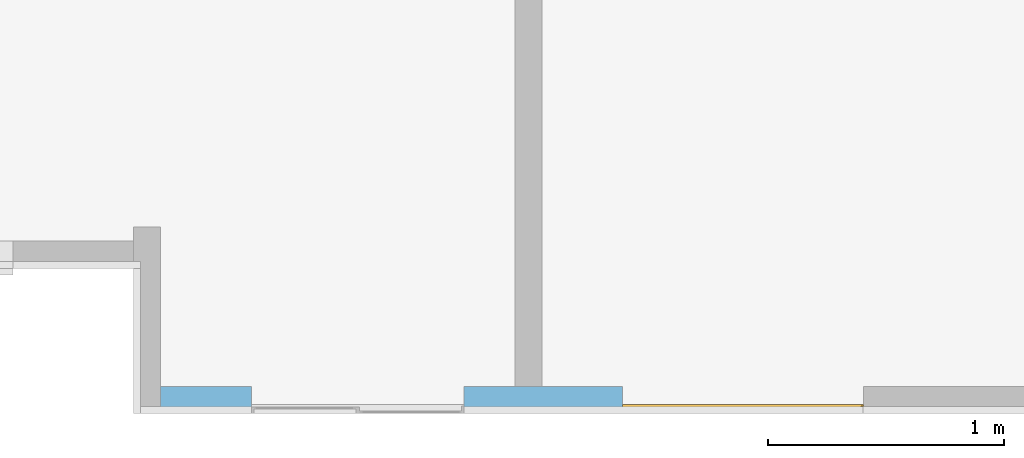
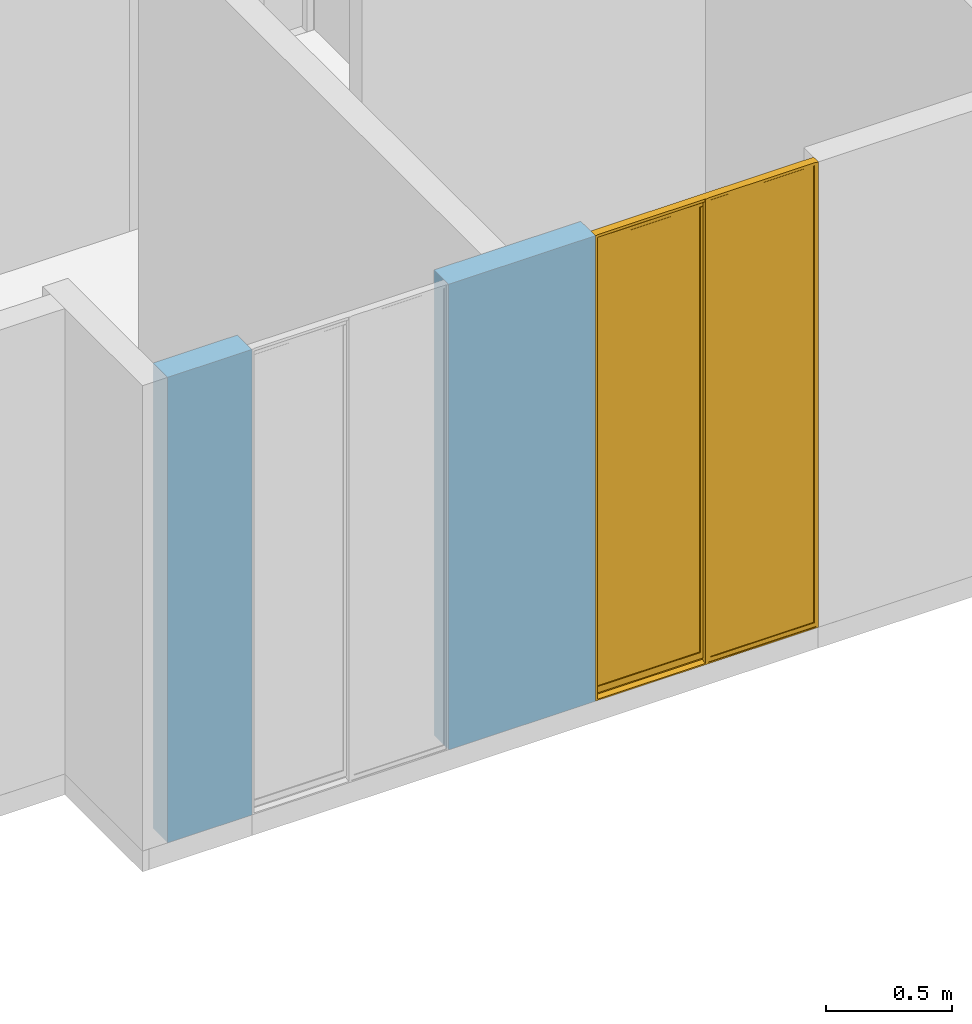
# One storey, part 12 of 48: 1 window, 2 openings, plus 1 element that does not belong to this part.
"""IFC4 building model written with IfcOpenShell, lengths in metres."""

from ifc_helpers import new_model, entity, si_unit, converted_unit, derived_unit, direction, frame, origin, place, context, subcontext, project, spatial, indexed_curve, outline, extrude, polygons, source, transform, mapped, material, constituent, constituent_set, type_object, type_shapes, element, fill, save


model = new_model("IFC4")

# Units and contexts
model_context = context("Model", 3, precision=1e-05, world=origin(), true_north=direction((6.123031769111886e-17, 1.0)))
body_context = subcontext(model_context, "Body", "Model", "MODEL_VIEW")
ifc_project = project(units=[si_unit("LENGTHUNIT", "METRE"), si_unit("AREAUNIT", "SQUARE_METRE"), si_unit("VOLUMEUNIT", "CUBIC_METRE"), converted_unit("PLANEANGLEUNIT", "DEGREE", entity("IfcRatioMeasure", 0.017453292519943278), si_unit("PLANEANGLEUNIT", "RADIAN"), dimensions=[0, 0, 0, 0, 0, 0, 0]), si_unit("MASSUNIT", "GRAM", prefix="KILO"), derived_unit("MASSDENSITYUNIT", [(si_unit("MASSUNIT", "GRAM", prefix="KILO"), 1), (si_unit("LENGTHUNIT", "METRE"), -3)]), derived_unit("IONCONCENTRATIONUNIT", [(si_unit("MASSUNIT", "GRAM", prefix="KILO"), 1), (si_unit("LENGTHUNIT", "METRE"), -3)]), derived_unit("MOMENTOFINERTIAUNIT", [(si_unit("LENGTHUNIT", "METRE"), 4)]), si_unit("TIMEUNIT", "SECOND"), si_unit("FREQUENCYUNIT", "HERTZ"), si_unit("THERMODYNAMICTEMPERATUREUNIT", "DEGREE_CELSIUS"), derived_unit("THERMALTRANSMITTANCEUNIT", [(si_unit("MASSUNIT", "GRAM", prefix="KILO"), 1), (si_unit("THERMODYNAMICTEMPERATUREUNIT", "KELVIN"), -1), (si_unit("TIMEUNIT", "SECOND"), -3)]), derived_unit("THERMALCONDUCTANCEUNIT", [(si_unit("MASSUNIT", "GRAM", prefix="KILO"), 1), (si_unit("THERMODYNAMICTEMPERATUREUNIT", "KELVIN"), -1), (si_unit("TIMEUNIT", "SECOND"), -3), (si_unit("LENGTHUNIT", "METRE"), 1)]), derived_unit("VOLUMETRICFLOWRATEUNIT", [(si_unit("LENGTHUNIT", "METRE"), 3), (si_unit("TIMEUNIT", "SECOND"), -1)]), derived_unit("MASSFLOWRATEUNIT", [(si_unit("MASSUNIT", "GRAM", prefix="KILO"), 1), (si_unit("TIMEUNIT", "SECOND"), -1)]), derived_unit("ROTATIONALFREQUENCYUNIT", [(si_unit("TIMEUNIT", "SECOND"), -1)]), si_unit("ELECTRICCURRENTUNIT", "AMPERE"), si_unit("ELECTRICVOLTAGEUNIT", "VOLT"), si_unit("POWERUNIT", "WATT"), si_unit("FORCEUNIT", "NEWTON", prefix="KILO"), si_unit("ILLUMINANCEUNIT", "LUX"), si_unit("LUMINOUSFLUXUNIT", "LUMEN"), si_unit("LUMINOUSINTENSITYUNIT", "CANDELA"), derived_unit("USERDEFINED", [(si_unit("MASSUNIT", "GRAM", prefix="KILO"), -1), (si_unit("LENGTHUNIT", "METRE"), -2), (si_unit("TIMEUNIT", "SECOND"), 3), (si_unit("LUMINOUSFLUXUNIT", "LUMEN"), 1)]), derived_unit("USERDEFINED", [(si_unit("MASSUNIT", "GRAM", prefix="KILO"), 1), (si_unit("TIMEUNIT", "SECOND"), -3), (si_unit("LENGTHUNIT", "METRE"), 3), (si_unit("ELECTRICCURRENTUNIT", "AMPERE"), -2)]), derived_unit("SOUNDPOWERUNIT", [(si_unit("MASSUNIT", "GRAM", prefix="KILO"), 1), (si_unit("TIMEUNIT", "SECOND"), -3), (si_unit("LENGTHUNIT", "METRE"), 2)]), derived_unit("SOUNDPRESSUREUNIT", [(si_unit("MASSUNIT", "GRAM", prefix="KILO"), 1), (si_unit("LENGTHUNIT", "METRE"), -1), (si_unit("TIMEUNIT", "SECOND"), -2)]), derived_unit("LINEARVELOCITYUNIT", [(si_unit("LENGTHUNIT", "METRE"), 1), (si_unit("TIMEUNIT", "SECOND"), -1)]), si_unit("PRESSUREUNIT", "PASCAL"), derived_unit("USERDEFINED", [(si_unit("MASSUNIT", "GRAM", prefix="KILO"), 1), (si_unit("LENGTHUNIT", "METRE"), -2), (si_unit("TIMEUNIT", "SECOND"), -2)]), derived_unit("LINEARFORCEUNIT", [(si_unit("MASSUNIT", "GRAM", prefix="KILO"), 1), (si_unit("TIMEUNIT", "SECOND"), -2)]), derived_unit("PLANARFORCEUNIT", [(si_unit("MASSUNIT", "GRAM", prefix="KILO"), 1), (si_unit("LENGTHUNIT", "METRE"), -1), (si_unit("TIMEUNIT", "SECOND"), -2)]), derived_unit("SPECIFICHEATCAPACITYUNIT", [(si_unit("THERMODYNAMICTEMPERATUREUNIT", "KELVIN"), -1), (si_unit("LENGTHUNIT", "METRE"), 2), (si_unit("TIMEUNIT", "SECOND"), -2)]), derived_unit("HEATINGVALUEUNIT", [(si_unit("LENGTHUNIT", "METRE"), 2), (si_unit("TIMEUNIT", "SECOND"), -2)]), derived_unit("VAPORPERMEABILITYUNIT", [(si_unit("LENGTHUNIT", "METRE"), -1), (si_unit("TIMEUNIT", "SECOND"), 1)]), derived_unit("DYNAMICVISCOSITYUNIT", [(si_unit("MASSUNIT", "GRAM", prefix="KILO"), 1), (si_unit("TIMEUNIT", "SECOND"), -1), (si_unit("LENGTHUNIT", "METRE"), -1)]), derived_unit("THERMALEXPANSIONCOEFFICIENTUNIT", [(si_unit("THERMODYNAMICTEMPERATUREUNIT", "KELVIN"), -1)]), derived_unit("MODULUSOFELASTICITYUNIT", [(si_unit("MASSUNIT", "GRAM", prefix="KILO"), 1), (si_unit("LENGTHUNIT", "METRE"), -1), (si_unit("TIMEUNIT", "SECOND"), -2)]), derived_unit("ISOTHERMALMOISTURECAPACITYUNIT", [(si_unit("LENGTHUNIT", "METRE"), 3), (si_unit("MASSUNIT", "GRAM", prefix="KILO"), -1)]), derived_unit("MOISTUREDIFFUSIVITYUNIT", [(si_unit("TIMEUNIT", "SECOND"), -1), (si_unit("LENGTHUNIT", "METRE"), 2)])], contexts=[model_context])

# Site, building, storey
site_placement = place(None, origin())
site = spatial("IfcSite", under=ifc_project, at=site_placement, Name="Default", CompositionType="ELEMENT")
building_placement = place(site_placement, origin())
building = spatial("IfcBuilding", under=site, at=building_placement, CompositionType="ELEMENT")
storey_placement = place(building_placement, frame((0.0, 0.0, 7.050000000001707)))
storey = spatial("IfcBuildingStorey", under=building, at=storey_placement, Name="Nivel 4", CompositionType="ELEMENT", Elevation=7.050000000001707)

# Wall, openings, window
ifc_material_1 = material(Name="Ladrillo claro (Aire)", Category="Materials")
wall_type = type_object("IfcWallType", Name="Basic Wall:B2010 - 0.115m - Muro exterior en mampostería - Ladrillo", PredefinedType="STANDARD")
wall_placement = place(storey_placement, frame((12.577500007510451, -12.812500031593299, 0.0)))
wall = element("IfcWall", 1, at=wall_placement, inside=storey, type_object=wall_type, material=ifc_material_1, Name="Basic Wall:B2010 - 0.115m - Muro exterior en mampostería - Ladrillo", ObjectType="Basic Wall:B2010 - 0.115m - Muro exterior en mampostería - Ladrillo", PredefinedType="NOTDEFINED", context=body_context, shape_type="Tessellation", body=[
    polygons([(1.1551788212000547e-17, -0.057499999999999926, 2.2500000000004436), (1.1551788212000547e-17, -0.057499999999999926, -1.0828671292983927e-15), (0.3850000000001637, -0.057499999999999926, -1.0828671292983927e-15), (0.3850000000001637, -0.057499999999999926, 2.2500000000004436), (6.500625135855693e-16, 0.057499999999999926, -1.0828671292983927e-15), (0.3850000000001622, 0.057499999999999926, -1.0828671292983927e-15), (6.500625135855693e-16, 0.057499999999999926, 2.2500000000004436), (0.3850000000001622, 0.057499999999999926, 2.2500000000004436)], [[[1, 2, 3, 4]], [[2, 5, 6, 3]], [[2, 1, 7, 5]], [[4, 3, 6, 8]], [[7, 1, 4, 8]], [[5, 7, 8, 6]]], closed=True),
    polygons([(1.2850000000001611, 0.057499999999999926, -1.0828671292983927e-15), (1.2850000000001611, 0.057499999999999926, 2.2500000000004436), (1.4999999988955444, 0.057499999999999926, 2.2500000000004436), (1.6149999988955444, 0.05750000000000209, 2.2500000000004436), (1.9557999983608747, 0.057499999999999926, 2.2500000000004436), (1.9557999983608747, 0.057499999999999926, -1.0828671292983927e-15), (1.6149999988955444, 0.05750000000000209, 0.0), (1.4999999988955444, 0.057499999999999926, 0.0), (1.2850000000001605, -0.057499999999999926, 2.2500000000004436), (1.9557999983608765, -0.057499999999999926, 2.2500000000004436), (1.9557999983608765, -0.057499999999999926, -1.0828671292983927e-15), (1.2850000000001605, -0.057499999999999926, -1.0828671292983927e-15)], [[[1, 2, 3, 4, 5, 6, 7, 8]], [[2, 9, 10, 5, 4, 3]], [[10, 11, 6, 5]], [[12, 9, 2, 1]], [[12, 1, 8, 7, 6, 11]], [[9, 12, 11, 10]]], closed=True),
])
opening_1_placement = place(wall_placement, frame((0.38500000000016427, -0.05749999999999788, 0.0)))
element("IfcOpeningElement", 2, at=opening_1_placement, cuts=wall, Name="B2020 - Ventana corrediza 2C - Aluminio + Vidrio:B2020 - 0.90m x 2.25m - Ventana corrediza 2C - Aluminio + Vidrio:1", PredefinedType="OPENING", context=body_context, shape_type="SweptSolid", body=[
    extrude(outline(indexed_curve([(0.0, 0.899999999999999), (0.0, 3.6637865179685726e-30), (2.2499999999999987, 3.6637865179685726e-30), (2.249999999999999, 0.899999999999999), (0.0, 0.899999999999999)], self_intersect=False)), frame((0.0, 0.0, 0.0), z_axis=(0.0, 1.0, 0.0), x_axis=(0.0, 0.0, 1.0)), (0.0, 0.0, 1.0), 0.115),
])
opening_2_placement = place(wall_placement, frame((1.9557999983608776, -0.05749999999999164, 0.0)))
opening_2 = element("IfcOpeningElement", 3, at=opening_2_placement, cuts=wall, Name="B2020 - Ventana corrediza 2C - Aluminio + Vidrio:B2020 - 1.02m x 2.25m - Ventana corrediza 2C - Aluminio + Vidrio:1", PredefinedType="OPENING", context=body_context, shape_type="SweptSolid", body=[
    extrude(outline(indexed_curve([(0.0, 1.0199999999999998), (0.0, 7.374544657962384e-30), (2.2499999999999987, 7.374544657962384e-30), (2.249999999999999, 1.0199999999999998), (0.0, 1.0199999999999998)], self_intersect=False)), frame((0.0, 0.0, 0.0), z_axis=(0.0, 1.0, 0.0), x_axis=(0.0, 0.0, 1.0)), (0.0, 0.0, 1.0), 0.115),
])
ifc_material_2 = material(Name="Vidrio", Category="Materials")
ifc_constituent_1 = constituent(ifc_material_2, Name="Vidrio", Category="Materials")
ifc_material_3 = material(Name="<Unnamed>")
ifc_constituent_2 = constituent(ifc_material_3, Name="<Unnamed>")
ifc_constituent_set_1 = constituent_set(constituents=[ifc_constituent_1, ifc_constituent_2])
ifc_constituent_3 = constituent(ifc_material_2, Name="Vidrio", Category="Materials")
ifc_constituent_4 = constituent(ifc_material_3, Name="<Unnamed>")
ifc_constituent_set_2 = constituent_set(constituents=[ifc_constituent_3, ifc_constituent_4])
window_type = type_object("IfcWindowType", Name="B2020 - Ventana corrediza 2C - Aluminio + Vidrio:B2020 - 1.02m x 2.25m - Ventana corrediza 2C - Aluminio + Vidrio", PartitioningType="NOTDEFINED", PredefinedType="WINDOW", material=ifc_constituent_set_2)
shared_shape = source(origin(), body_context, "Body", "Tessellation", [
    polygons([(0.48981286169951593, 0.11062877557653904, 0.028641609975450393), (0.48981286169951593, 0.10552744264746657, 0.028641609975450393), (0.01996764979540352, 0.10552744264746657, 0.028641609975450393), (0.019967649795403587, 0.11062877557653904, 0.028641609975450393), (0.48981286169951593, 0.11062877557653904, 2.2347073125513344), (0.48981286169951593, 0.10552744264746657, 2.2347073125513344), (0.01996764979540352, 0.10552744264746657, 2.2347073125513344), (0.019967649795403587, 0.11062877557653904, 2.2347073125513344)], [[[1, 2, 3, 4]], [[5, 6, 2, 1]], [[6, 7, 3, 2]], [[7, 8, 4, 3]], [[8, 5, 1, 4]], [[5, 8, 7, 6]]], closed=True),
    polygons([(1.0011536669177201, 0.0938089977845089, 0.054189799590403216), (1.0011536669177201, 0.08951300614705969, 0.054189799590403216), (0.5317289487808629, 0.08951300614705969, 0.054189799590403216), (0.5317289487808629, 0.0938089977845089, 0.054189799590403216), (1.0011536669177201, 0.0938089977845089, 2.2043993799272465), (1.0011536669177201, 0.08951300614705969, 2.2043993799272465), (0.5317289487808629, 0.08951300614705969, 2.2043993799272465), (0.5317289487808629, 0.0938089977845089, 2.2043993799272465)], [[[1, 2, 3, 4]], [[5, 6, 2, 1]], [[6, 7, 3, 2]], [[7, 8, 4, 3]], [[8, 5, 1, 4]], [[5, 8, 7, 6]]], closed=True),
    polygons([(1.0200000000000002, 0.07999999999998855, 0.020380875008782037), (1.0200000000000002, 0.07999999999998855, -2.5718094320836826e-15), (1.0200000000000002, 0.1149999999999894, -2.5718094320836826e-15), (1.0200000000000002, 0.1150000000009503, 2.2499999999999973), (1.0200000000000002, 0.07720993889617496, 2.2499999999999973), (1.0200000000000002, 0.07720993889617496, 2.2365872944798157), (1.0200000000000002, 0.07857307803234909, 2.2365872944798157), (1.0200000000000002, 0.07857307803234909, 2.24863686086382), (1.0200000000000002, 0.08683610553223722, 2.24863686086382), (1.0200000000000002, 0.0868361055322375, 0.017447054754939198), (1.0200000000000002, 0.08124999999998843, 0.017447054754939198), (1.0200000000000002, 0.08124999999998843, 0.02163087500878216), (1.0200000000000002, 0.07857761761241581, 0.02163087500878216), (1.0200000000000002, 0.07857761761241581, 0.025674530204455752), (1.0200000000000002, 0.07732761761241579, 0.025674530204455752), (1.0200000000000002, 0.07732761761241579, 0.020380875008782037), (2.0303758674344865e-16, 0.0799999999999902, 0.020380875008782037), (2.0303758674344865e-16, 0.0799999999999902, -2.5718094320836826e-15), (2.0303758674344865e-16, 0.11499999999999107, -2.5718094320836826e-15), (0.5033545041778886, 0.1149999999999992, 2.2499999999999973), (0.5166454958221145, 0.1149999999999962, 2.2499999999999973), (0.5166454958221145, 0.11499999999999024, 0.006176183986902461), (1.010102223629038, 0.11499999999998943, 0.006176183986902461), (1.010102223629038, 0.1150000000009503, 2.2499999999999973), (2.707167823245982e-16, 0.1150000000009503, 2.2499999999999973), (0.009999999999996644, 0.11500000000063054, 2.2499999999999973), (0.009999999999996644, 0.11499999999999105, 0.006176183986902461), (0.5033545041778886, 0.11499999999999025, 0.006176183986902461), (1.003701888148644, 0.08683610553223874, 2.2069861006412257), (1.0037018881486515, 0.0868361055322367, 0.0519155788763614), (0.5291807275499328, 0.08683610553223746, 0.0519155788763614), (0.5291807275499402, 0.08683610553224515, 2.2043993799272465), (0.5166454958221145, 0.08683610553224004, 2.2043993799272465), (0.5166454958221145, 0.08683610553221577, 2.2069861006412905), (1.0037018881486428, 0.08683610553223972, 2.237270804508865), (0.5166454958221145, 0.0868361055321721, 2.237270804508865), (0.5166454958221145, 0.08683610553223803, 2.24863686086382), (0.5019528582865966, 0.08683610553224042, 2.24863686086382), (0.5019528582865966, 0.08683610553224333, 0.01744705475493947), (0.5166454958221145, 0.08683610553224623, 0.017447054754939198), (0.5166454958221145, 0.08683610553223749, 0.021630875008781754), (1.0162371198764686, 0.08683610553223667, 0.02163087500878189), (1.0162371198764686, 0.08683610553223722, 0.01744705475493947), (1.0037018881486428, 0.08683610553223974, 2.24863686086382), (2.0303758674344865e-16, 0.0812499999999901, 0.017447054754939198), (1.0162371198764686, 0.09036136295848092, 0.017447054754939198), (0.5166454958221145, 0.09036136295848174, 0.017447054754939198), (0.5019528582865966, 0.09036136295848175, 0.017447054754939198), (0.009999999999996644, 0.09036136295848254, 0.017447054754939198), (0.009999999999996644, 0.08300000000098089, 0.017447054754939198), (2.0303758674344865e-16, 0.08300000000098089, 0.017447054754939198), (2.0303758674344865e-16, 0.0812499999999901, 0.02163087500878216), (2.0303758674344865e-16, 0.07857761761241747, 0.02163087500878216), (2.0303758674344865e-16, 0.07857761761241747, 0.025674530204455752), (2.0303758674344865e-16, 0.07732761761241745, 0.025674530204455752), (2.0303758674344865e-16, 0.07732761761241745, 0.020380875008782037), (1.0011570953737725, 0.09380711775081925, 0.054191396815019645), (1.0037018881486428, 0.09648589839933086, 0.051915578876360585), (0.529180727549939, 0.09648589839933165, 0.051915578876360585), (0.5317227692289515, 0.09380452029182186, 0.054191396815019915), (1.0037018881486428, 0.09648589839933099, 2.237270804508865), (1.0011536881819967, 0.09378706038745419, 2.237270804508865), (1.0011536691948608, 0.09378696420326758, 2.24863686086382), (1.0037018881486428, 0.09648589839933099, 2.24863686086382), (1.0037018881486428, 0.09648589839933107, 2.206986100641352), (0.5166454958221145, 0.09648589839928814, 2.2069861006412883), (0.5166454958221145, 0.09648589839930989, 2.237270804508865), (1.010102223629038, 0.09648589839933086, 2.24863686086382), (1.010102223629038, 0.09648589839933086, 0.021630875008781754), (0.5166454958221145, 0.09648589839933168, 0.02163087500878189), (0.5166454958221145, 0.09648589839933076, 2.2043993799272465), (0.5291807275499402, 0.09648589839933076, 2.2043993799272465), (0.5317289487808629, 0.09379979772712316, 2.2043993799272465), (1.0011598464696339, 0.08951748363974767, 0.05419139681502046), (0.5317255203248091, 0.08951488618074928, 0.05419139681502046), (1.0011537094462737, 0.08953496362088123, 2.237270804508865), (1.0011536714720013, 0.08953504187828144, 2.24863686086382), (0.5317289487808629, 0.08952211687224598, 2.2043992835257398), (0.5019528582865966, 0.10334183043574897, 2.24863686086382), (0.5019528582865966, 0.10334183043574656, 0.014402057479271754), (0.5019528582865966, 0.09363692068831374, 0.014402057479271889), (0.5019528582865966, 0.0936369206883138, 0.010600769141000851), (0.5019528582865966, 0.09036136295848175, 0.011279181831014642), (0.5166454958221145, 0.11281438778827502, 2.2499999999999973), (0.5166454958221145, 0.11281438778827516, 2.2369062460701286), (0.5166454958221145, 0.11061545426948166, 2.2347073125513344), (0.5166454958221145, 0.10554076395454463, 2.2347073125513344), (0.5166454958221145, 0.10334183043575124, 2.2369062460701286), (0.5166454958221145, 0.10334183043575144, 2.24863686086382), (0.5166454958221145, 0.09380890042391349, 2.204399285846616), (0.5166454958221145, 0.09036136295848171, 0.011279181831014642), (1.0162371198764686, 0.09648589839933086, 0.021630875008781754), (1.0162371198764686, 0.09648589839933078, 0.010010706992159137), (1.0162371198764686, 0.0903613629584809, 0.011279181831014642), (1.010102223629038, 0.09648589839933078, 0.010010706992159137), (1.010102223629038, 0.10334183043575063, 2.24863686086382), (1.010102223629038, 0.10334183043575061, 2.2369062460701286), (1.010102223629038, 0.1055407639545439, 2.2347073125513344), (1.010102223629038, 0.11061545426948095, 2.2347073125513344), (1.010102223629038, 0.11281438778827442, 2.2369062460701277), (1.010102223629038, 0.11281438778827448, 2.2499999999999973), (2.0303758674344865e-16, 0.08300000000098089, 2.24863686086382), (2.0303758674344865e-16, 0.07857307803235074, 2.24863686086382), (2.0303758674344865e-16, 0.07857307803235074, 2.2365872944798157), (2.0303758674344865e-16, 0.07720993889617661, 2.2365872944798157), (2.0303758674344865e-16, 0.07720993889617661, 2.2499999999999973), (0.009999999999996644, 0.08300000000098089, 2.24863686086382), (0.009999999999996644, 0.09036136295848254, 0.011279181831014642), (0.009999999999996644, 0.09363692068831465, 0.010600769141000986), (0.009999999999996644, 0.09363692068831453, 0.014402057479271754), (0.009999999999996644, 0.10334183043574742, 0.014402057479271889), (0.009999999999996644, 0.10334183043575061, 2.24863686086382), (0.5033545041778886, 0.11281438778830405, 0.006628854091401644), (0.5033545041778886, 0.112814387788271, 2.2499999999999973), (0.009999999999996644, 0.11281438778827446, 2.2499999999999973), (0.009999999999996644, 0.11281438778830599, 0.0066288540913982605), (0.4923610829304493, 0.11281438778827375, 0.02682441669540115), (0.48981286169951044, 0.11062877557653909, 0.028641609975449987), (0.4898128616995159, 0.1106287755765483, 2.2347139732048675), (0.4923610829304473, 0.11281438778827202, 2.236906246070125), (0.019967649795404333, 0.11062877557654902, 0.028641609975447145), (0.017419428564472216, 0.11281438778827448, 0.02682441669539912), (0.017419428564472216, 0.1128143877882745, 2.236906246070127), (0.019967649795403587, 0.11062877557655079, 2.2347139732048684), (0.019967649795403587, 0.10552744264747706, 0.028641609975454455), (0.01741942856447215, 0.1033418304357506, 0.026824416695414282), (0.4923610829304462, 0.10334183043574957, 0.02682441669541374), (0.48981286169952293, 0.10552744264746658, 0.028641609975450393), (0.019968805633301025, 0.10553009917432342, 2.234711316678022), (0.01741942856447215, 0.10334183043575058, 2.23690624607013), (0.49236108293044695, 0.10334183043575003, 2.2369062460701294), (0.4898117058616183, 0.1055300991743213, 2.234711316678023), (1.0011537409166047, 0.09378737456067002, 2.2043889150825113), (1.0011555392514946, 0.0895303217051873, 2.2043931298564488), (0.5166454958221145, 0.08951315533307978, 2.2043993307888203)], [[[1, 2, 3, 4, 5, 6, 7, 8, 9, 10, 11, 12, 13, 14, 15, 16]], [[17, 18, 2, 1]], [[2, 18, 19, 3]], [[20, 21, 22, 23, 24, 4, 3, 19, 25, 26, 27, 28]], [[35, 36, 37, 38, 39, 40, 41, 42, 43, 10, 9, 44], [29, 30, 31, 32, 33, 34]], [[45, 11, 10, 43, 46, 47, 40, 39, 48, 49, 50, 51]], [[45, 52, 12, 11]], [[52, 53, 13, 12]], [[53, 54, 14, 13]], [[54, 55, 15, 14]], [[55, 56, 16, 15]], [[56, 17, 1, 16]], [[57, 58, 59, 60]], [[61, 62, 63, 64]], [[58, 65, 66, 67, 61, 64, 68, 69, 70, 71, 72, 59]], [[72, 73, 60, 59]], [[74, 57, 60, 75]], [[62, 76, 77, 63]], [[60, 73, 78, 75]], [[30, 74, 75, 31]], [[76, 35, 44, 77]], [[78, 32, 31, 75]], [[48, 39, 38, 79, 80, 81, 82, 83]], [[22, 21, 84, 85, 86, 87, 88, 89, 37, 36, 67, 66, 90, 71, 70, 41, 40, 47, 91]], [[41, 70, 69, 92, 42]], [[92, 93, 94, 46, 43, 42]], [[69, 95, 93, 92]], [[24, 23, 95, 69, 68, 96, 97, 98, 99, 100, 101]], [[17, 56, 55, 54, 53, 52, 45, 51, 102, 103, 104, 105, 106, 25, 19, 18]], [[51, 50, 107, 102]], [[48, 83, 108, 49]], [[50, 49, 108, 109, 110, 111, 112, 107]], [[83, 82, 109, 108]], [[113, 114, 20, 28]], [[26, 115, 116, 27]], [[84, 101, 100, 85]], [[82, 81, 110, 109]], [[117, 118, 119, 120]], [[121, 122, 123, 124]], [[122, 121, 118, 117]], [[125, 126, 127, 128]], [[88, 97, 96, 89]], [[126, 125, 129, 130]], [[128, 127, 131, 132]], [[81, 80, 111, 110]], [[125, 121, 124, 129]], [[121, 125, 128, 118]], [[118, 128, 132, 119]], [[5, 4, 24, 101, 84, 21, 20, 114, 115, 26, 25, 106]], [[65, 133, 73, 90, 66]], [[133, 134, 78, 73]], [[134, 29, 34, 135, 78]], [[76, 62, 61, 67, 36, 35]], [[33, 32, 78, 135]], [[104, 103, 8, 7]], [[105, 104, 7, 6]], [[106, 105, 6, 5]], [[123, 120, 119, 124]], [[132, 129, 124, 119]], [[131, 130, 129, 132]], [[8, 103, 102, 107, 112, 79, 38, 37, 89, 96, 68, 64, 63, 77, 44, 9]], [[87, 98, 97, 88]], [[86, 99, 98, 87]], [[85, 100, 99, 86]], [[73, 72, 71, 90]], [[111, 80, 79, 112], [127, 126, 130, 131]], [[115, 114, 113, 116], [117, 120, 123, 122]], [[113, 28, 27, 116]], [[22, 91, 94, 93, 95, 23]], [[91, 47, 46, 94]], [[135, 34, 33]], [[74, 30, 29, 134]], [[57, 74, 134, 133]], [[58, 57, 133, 65]]], closed=True),
])
type_shapes(window_type, [shared_shape])
window_placement = place(opening_2_placement, frame((1.0199999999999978, 0.1150000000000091, 0.0), z_axis=(0.0, 0.0, 1.0), x_axis=(-1.0, 0.0, 0.0)))
window = element("IfcWindow", 4, at=window_placement, inside=storey, type_object=window_type, material=ifc_constituent_set_1, Name="B2020 - Ventana corrediza 2C - Aluminio + Vidrio:B2020 - 1.02m x 2.25m - Ventana corrediza 2C - Aluminio + Vidrio", ObjectType="B2020 - Ventana corrediza 2C - Aluminio + Vidrio:B2020 - 1.02m x 2.25m - Ventana corrediza 2C - Aluminio + Vidrio", OverallHeight=2.2499999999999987, OverallWidth=1.0199999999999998, PartitioningType="NOTDEFINED", PredefinedType="WINDOW", context=body_context, shape_type="MappedRepresentation", body=[
    mapped(shared_shape, transform((0.0, 0.0, 0.0), scale=1.0)),
])
fill(opening_2, window)

save(model, "model.ifc")
